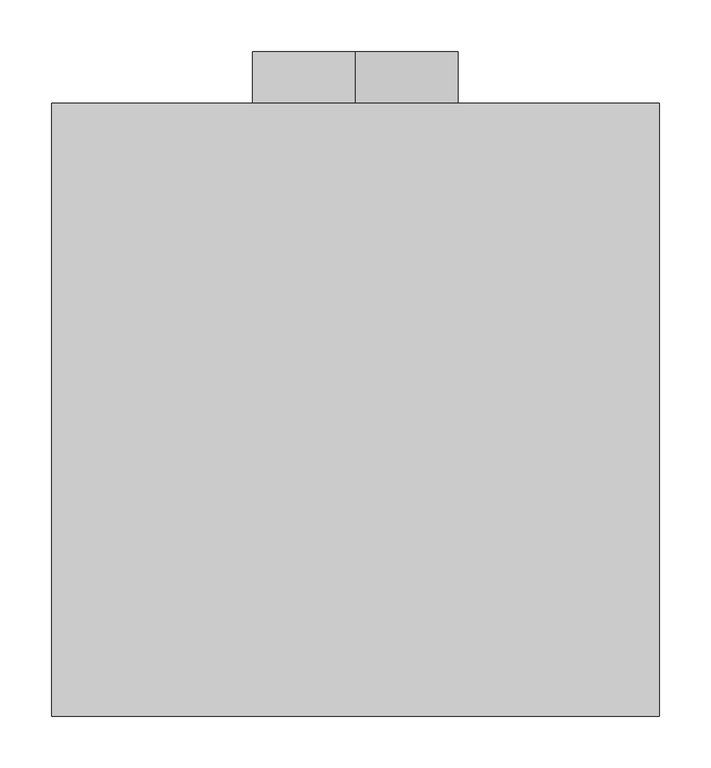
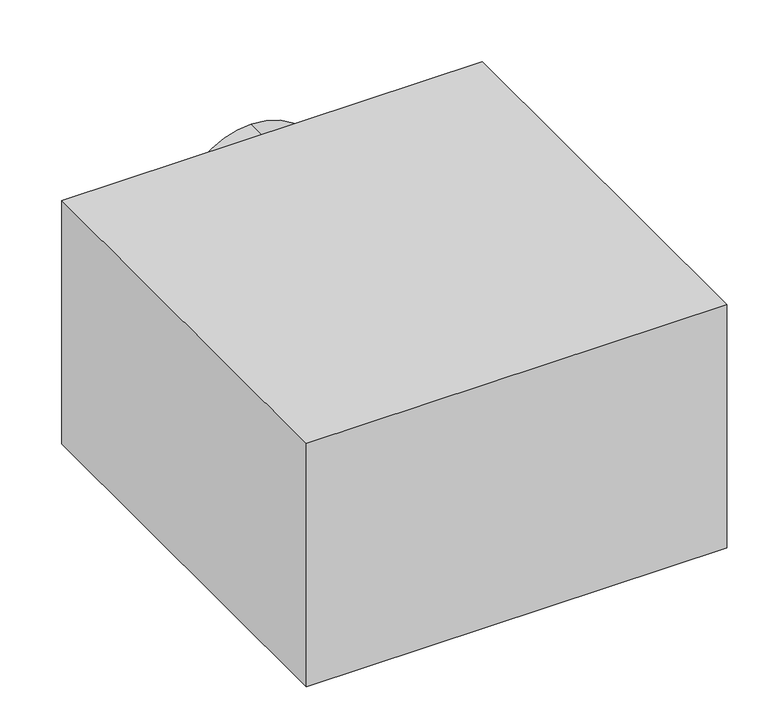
"""IFC4 building model written with IfcOpenShell, lengths in millimetres: air terminal geometry, EOL - plafonnier : EOL-P3-200-600x600."""

from ifc_helpers import new_model, si_unit, point, frame, frame_2d, origin, place, context, project, spatial, polyline, circle_curve, trimmed, segment, composite_curve, outline, extrude, source, transform, mapped, element, save
from ifc_brep_helpers import plane_surface, revolved_surface, advanced_brep


def air_terminal_c77c7e95(model_context):
    return source(origin(), model_context, "Body", "SolidModel", [
        extrude(outline(composite_curve([segment(trimmed(circle_curve(frame_2d((241.0, 0.0)), 100.0), [point((141.0, 0.0))], [point((341.0, 0.0))], False, "CARTESIAN"), True, "CONTINUOUS"), segment(trimmed(circle_curve(frame_2d((241.0, 0.0)), 100.0), [point((341.0, 0.0))], [point((141.0, 0.0))], False, "CARTESIAN"), True, "CONTINUOUS")], self_intersect=False), holes=[composite_curve([segment(trimmed(circle_curve(frame_2d((241.0, 0.0)), 99.0), [point((241.0, 99.0))], [point((241.0, -99.0))], True, "CARTESIAN"), True, "CONTINUOUS"), segment(trimmed(circle_curve(frame_2d((241.0, 0.0)), 99.0), [point((241.0, -99.0))], [point((241.0, 99.0))], True, "CARTESIAN"), True, "CONTINUOUS")], self_intersect=False)]), frame((0.0, 590.0, 0.0), z_axis=(0.0, 1.0, 0.0), x_axis=(0.0, 0.0, 1.0)), (0.0, 0.0, 1.0), 50.0),
        advanced_brep(
        [(295.0, 590.0, 361.0), (-295.0, 590.0, 361.0), (-295.0, -5.0, 361.0), (295.0, -5.0, 361.0), (295.0, 590.0, 0.0), (295.0, -5.0, 0.0), (-295.0, -5.0, 0.0), (-295.0, 590.0, 0.0), (290.0, 585.0, 0.0), (-290.0, 585.0, 0.0), (-290.0, 0.0, 0.0), (290.0, 0.0, 0.0), (-99.0, 590.0, 241.0), (99.0, 590.0, 241.0), (290.0, 585.0, 356.0), (290.0, 0.0, 356.0), (-290.0, 0.0, 356.0), (-290.0, 585.0, 356.0), (99.0, 585.0, 241.0), (-99.0, 585.0, 241.0)],
        [
            (0, 1),
            (1, 2),
            (2, 3),
            (3, 0),
            (4, 5),
            (5, 6),
            (6, 7),
            (7, 4),
            (8, 9),
            (9, 10),
            (10, 11),
            (11, 8),
            (0, 4),
            (7, 1),
            (12, 13, circle_curve(frame((0.0, 590.0, 241.0), z_axis=(0.0, -1.0, 0.0), x_axis=(1.0, 0.0, 0.0)), 99.0)),
            (13, 12, circle_curve(frame((0.0, 590.0, 241.0), z_axis=(0.0, -1.0, 0.0), x_axis=(1.0, 0.0, 0.0)), 99.0)),
            (6, 2),
            (5, 3),
            (14, 15),
            (15, 16),
            (16, 17),
            (17, 14),
            (17, 9),
            (8, 14),
            (18, 19, circle_curve(frame((0.0, 585.0, 241.0), z_axis=(0.0, 1.0, 0.0), x_axis=(1.0, 0.0, 0.0)), 99.0)),
            (19, 18, circle_curve(frame((0.0, 585.0, 241.0), z_axis=(0.0, 1.0, 0.0), x_axis=(1.0, 0.0, 0.0)), 99.0)),
            (16, 10),
            (15, 11),
            (12, 19),
            (18, 13),
        ],
        [
            plane_surface(frame((-295.0, 590.0, 361.0), z_axis=(0.0, 0.0, 1.0), x_axis=(-1.0, 0.0, 0.0))),
            plane_surface(frame((-295.0, 590.0, 0.0), z_axis=(0.0, 0.0, -1.0), x_axis=(1.0, 0.0, 0.0))),
            plane_surface(frame((295.0, 590.0, 361.0), z_axis=(0.0, 1.0, 0.0), x_axis=(0.0, 0.0, -1.0))),
            plane_surface(frame((-295.0, 590.0, 361.0), z_axis=(-1.0, 0.0, 0.0), x_axis=(0.0, 0.0, -1.0))),
            plane_surface(frame((-295.0, -5.0, 361.0), z_axis=(0.0, -1.0, 0.0), x_axis=(0.0, 0.0, -1.0))),
            plane_surface(frame((295.0, -5.0, 361.0), z_axis=(1.0, 0.0, 0.0), x_axis=(0.0, 0.0, -1.0))),
            plane_surface(frame((-290.0, 585.0, 356.0), z_axis=(0.0, 0.0, -1.0), x_axis=(-1.0, 0.0, 0.0))),
            plane_surface(frame((290.0, 585.0, 356.0), z_axis=(0.0, -1.0, 0.0), x_axis=(0.0, 0.0, -1.0))),
            plane_surface(frame((-290.0, 585.0, 356.0), z_axis=(1.0, 0.0, 0.0), x_axis=(0.0, 0.0, -1.0))),
            plane_surface(frame((-290.0, 0.0, 356.0), z_axis=(0.0, 1.0, 0.0), x_axis=(0.0, 0.0, -1.0))),
            plane_surface(frame((290.0, 0.0, 356.0), z_axis=(-1.0, 0.0, 0.0), x_axis=(0.0, 0.0, -1.0))),
            revolved_surface(polyline([(99.0, 585.0, 241.0), (99.0, 590.0, 241.0)]), (0.0, 640.0, 241.0), (0.0, -1.0, 0.0)),
        ],
        [
            (0, [[1, 2, 3, 4]]),
            (1, [[5, 6, 7, 8], [9, 10, 11, 12]]),
            (2, [[-1, 13, -8, 14], [15, 16]]),
            (3, [[-2, -14, -7, 17]]),
            (4, [[-3, -17, -6, 18]]),
            (5, [[-4, -18, -5, -13]]),
            (6, [[19, 20, 21, 22]]),
            (7, [[-22, 23, -9, 24], [25, 26]]),
            (8, [[-21, 27, -10, -23]]),
            (9, [[-20, 28, -11, -27]]),
            (10, [[-19, -24, -12, -28]]),
            (11, [[29, -25, 30, -15]]),
            (11, [[-29, -16, -30, -26]]),
        ],
    ),
    ])


if __name__ == "__main__":
    model = new_model("IFC4")
    model_context = context("Model", 3, world=origin())
    ifc_project = project(units=[si_unit("LENGTHUNIT", "METRE", prefix="MILLI")], contexts=[model_context])
    site = spatial("IfcSite", under=ifc_project)
    building = spatial("IfcBuilding", under=site)
    placement = place(None, origin())
    air_terminal_shape = air_terminal_c77c7e95(model_context)
    element("IfcAirTerminal", 1, ObjectType="EOL - plafonnier : EOL-P3-200-600x600", at=placement, inside=building, context=model_context, shape_type="MappedRepresentation", body=[
        mapped(air_terminal_shape, transform((0.0, 0.0, 0.0), x_axis=(1.0, 0.0, 0.0), y_axis=(0.0, 1.0, 0.0), z_axis=(0.0, 0.0, 1.0))),
    ])
    save(model, "model.ifc")
